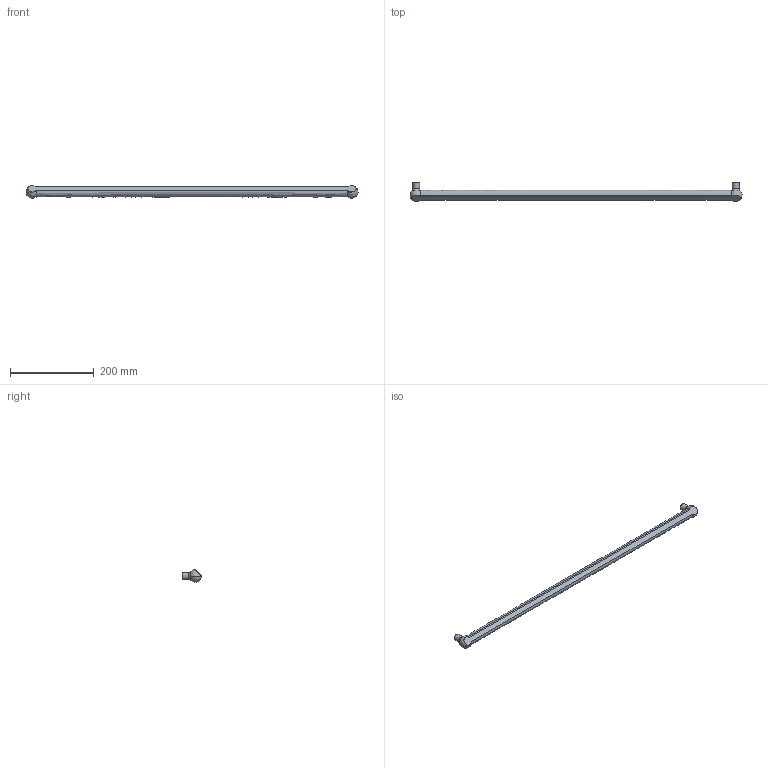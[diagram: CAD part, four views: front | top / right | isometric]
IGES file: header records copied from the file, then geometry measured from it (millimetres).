
Start section: Data from Parasolid IGES Translator 15.0.47, Copyright(c) 2006 Siemens P LM Software. All Rights Reserved.
Global section: file name: 9105773.igs; native system:  By UGS Corp.; preprocessor: XPlus GENERIC/IGES 3.0; author: Noname; organization: Noname; date: 20140122.155754; units: millimetre
Bounding box: 794.96 x 45 x 29.99 mm (x, y, z)
Surface area: 62271.5 mm2 (no closed solid volume)
Topology: 0 solids, 0 shells, 17 faces, 78 edges, 68 vertices
Faces by surface type: revolution 12, extrusion 5
